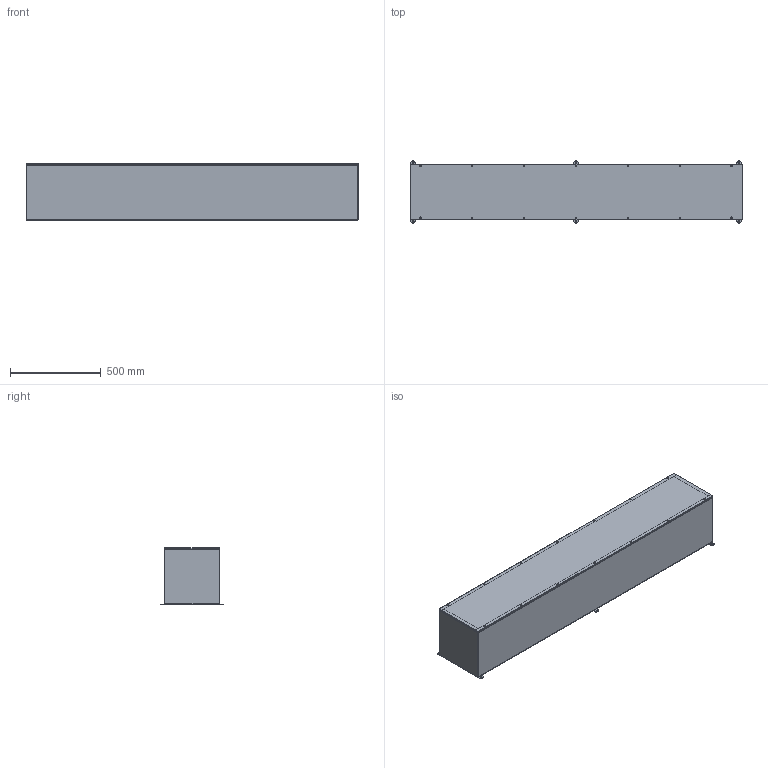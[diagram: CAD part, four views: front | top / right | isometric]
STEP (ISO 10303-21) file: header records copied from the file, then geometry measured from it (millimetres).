
FILE_DESCRIPTION (( 'STEP AP203' ), '1' );
FILE_NAME ('f121272scss.STEP', '2016-02-23T17:24:42', ( '' ), ( '' ), 'SwSTEP 2.0', 'SolidWorks 2014', '' );
FILE_SCHEMA (( 'CONFIG_CONTROL_DESIGN' ));
Length unit declared in the file: inch
Products named in the file (12): 89128176; 89127770; 89127765; f121272scss; 14241008; 87789569_DEFAULT; 58110002; 89127731; 89127804; 89127746; 89127673; 89127750
Assembly tree (35 placements, depth 3):
  f121272scss
    89127765
      89127746
      89127750  x2
      89127770  x3
    14241008  x4
    87789569_DEFAULT  x4
    58110002  x14
    89128176
      89127731
      89127804  x2
      89127673  x2
Bounding box: 1828.8 x 342.9 x 317.13 mm (x, y, z)
Volume: 5112635.5 mm3; surface area: 5203790.7 mm2
Topology: 33 solids, 33 shells, 782 faces, 1868 edges, 1184 vertices
Faces by surface type: plane 376, cylinder 236, cone 62, sphere 52, torus 44, bspline 12
Entity records: 13918 total; most frequent: CARTESIAN_POINT 2389, DIRECTION 2032, ORIENTED_EDGE 1932, EDGE_CURVE 966, AXIS2_PLACEMENT_3D 698, VECTOR 636, LINE 636, VERTEX_POINT 631
